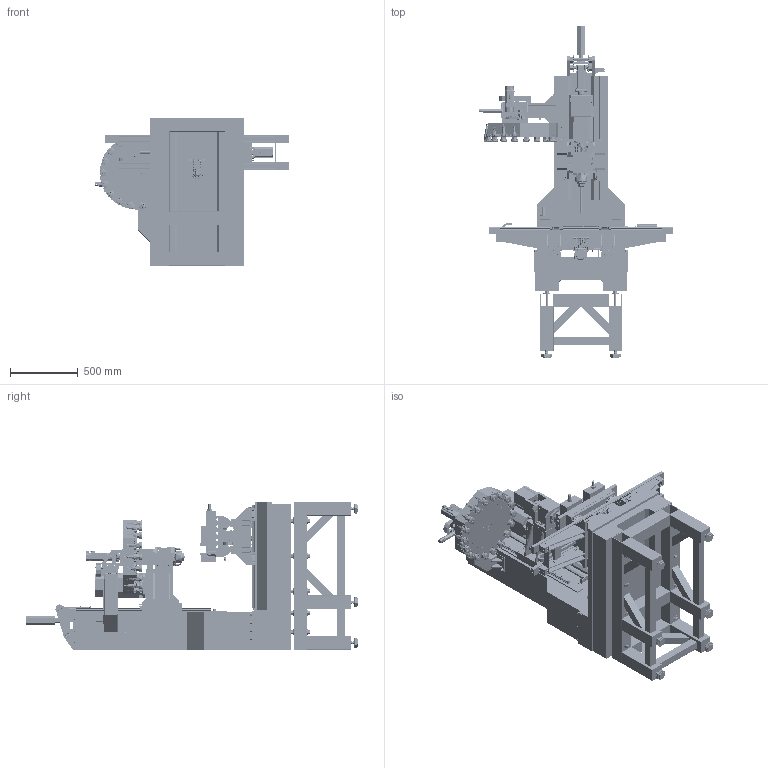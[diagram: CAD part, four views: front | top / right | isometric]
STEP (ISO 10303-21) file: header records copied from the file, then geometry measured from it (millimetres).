
FILE_DESCRIPTION (( 'STEP AP214' ), '1' );
FILE_NAME ('Epoxy granite VMC.STEP', '2020-09-02T17:36:35', ( '' ), ( '' ), 'SwSTEP 2.0', 'SolidWorks 2017', '' );
FILE_SCHEMA (( 'AUTOMOTIVE_DESIGN' ));
Length unit declared in the file: millimetre
Products named in the file (304): HGW25CCZAC; cilinder beugel; Imported_37; Part9^base assembly v3 concrete; socket set screw flat point_din_DIN 913 - M12 x 25-N; socket head cap screw_din_DIN 912 M6 x 60 --- 24N; jjgj; Part3^Brug compleet; Copy of Part11^Assem1_Kolom beton; Smeerleiding brug 3; beton basis; Part15^kop samenstelling staal; Smeerleiding klemblok_2-Voudig bovenkant; socket head cap screw_din_DIN 912 M10 x 16 --- 16N; Part2^dubbele moer 25mm; coolant nozle kort; Verstevigingsrib type 1; BT30 Spindle - Spindle Shaft; Imported_5; taper roller bearing_din_DIN 720 - 32006X - 18,SI,NC,18; Imported_6; Copy of Part12^Assem1_Kolom beton; main block; Copy of Part3^kop samenstelling staal; HGR30R760C; sdfsf; Part1^atc opzet v3; socket head cap screw_din_DIN 912 M8 x 45 --- 28N; Copy of Part8^Assem1_Kolom beton; montage plug m6; Copy of Part6^kop samenstelling staal; Smeerleiding klemblok_2-Voudig onderkant; Imported_28; BT30 Spindle Assembly; Montageplaat X-as motorbeugel; Part2^kop samenstelling staal; Montagestrip rails Z-as2; E-BT30 -ER 32 COLLET CHUCK ; radial ball bearing_68_din_DIN 625 - 6004 - 12,SI,NC,12_68; HGW30CAZACSS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
Assembly tree (871 placements, depth 6):
  Epoxy granite VMC
    base assembly v3 concrete
      beton basis
      montage strippen rail  x2
      Part2^base assembly v3 concrete
      Copy of Part2^base assembly v3 concrete
      spindle met motor assembly
        yas spindle
        (3974) 80x80 Servo Motor Bracket (MBA-15E) STEP214
        ECMA-C20807RS STEP214
        FK15-B-HiwinCorporation-02-07-2017
        BF15-HiwinCorporation-02-07-2017
      montage blok servo lagerblok
      eind lager montage block
      Part5^base assembly v3 concrete  x2
      Part6^base assembly v3 concrete  x2
      hex bolt gradeab_din_DIN EN 24014 - M10 x 45 x 26-N  x4
      hex bolt gradeab_din_DIN EN 24014 - M16 x 65 x 38-N  x50
      montage plug m6  x68
      verankering frame  x2
      HGR30R760C  x2
      verankering frame m16 langebout  x10
      Part3^base assembly v3 concrete  x2
      beugel1 homesensor
      Part9^base assembly v3 concrete
      home sensor
    Brug compleet
      Brug samenstelling
        Brug las samenstelling
          Brug basisplaat buitenzijde voorkant
          Brug basisplaat binnenzijde voorkant
          Montagestrip rails X-as  x2
          Montageplaat wagens Y-as  x2
          Verstevigingsrib type 3  x2
          Verstevigingsrib type 1  x2
          Verstevigingsrib type 2  x2
          Montageplaat X-as lagerblok
          Montageplaat X-as motorbeugel
          Montageplaat Y-as moer
          Brug basisplaat binnenzijde achterkant
          Brug basisplaat buitenzijde achterkant
          Verstevigingsrib type 4  x2
          Verstevigingsrib type 5
        HGR25R12002C  x2
        5v oli verdeler
        Hoeklijn kabelrups
        x axis spindle assembly
          FK15-B-HiwinCorporation-02-07-2017
          BF15-HiwinCorporation-02-07-2017
          PRODUCT_NAME_2
          ECMA-C20807RS STEP214
          (3974) 80x80 Servo Motor Bracket (MBA-15E) STEP214
          DCNC-D40-L65_STEP203
            ID_1_2
            ID_2
            ID_1
        HGW30CAZACSS  x4
        socket head cap screw_din_DIN 912 M6 x 20 --- 20N  x40
        socket head cap screw_din_DIN 912 M8 x 40 --- 28N  x4
        socket head cap screw_din_DIN 912 M6 x 60 --- 24N  x2
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Bounding box: 1434 x 2450.5 x 1092.5 mm (x, y, z)
Topology: 1060 solids, 1197 shells, 52105 faces, 129231 edges, 80757 vertices
Faces by surface type: plane 26519, cylinder 14796, cone 5806, bspline 2911, torus 1865, sphere 208
Full cylindrical faces by diameter (mm): 2 x1
Entity records: 665874 total; most frequent: CARTESIAN_POINT 213510, DIRECTION 86132, ORIENTED_EDGE 84178, EDGE_CURVE 42089, AXIS2_PLACEMENT_3D 31986, VERTEX_POINT 27188, VECTOR 22160, LINE 22160
